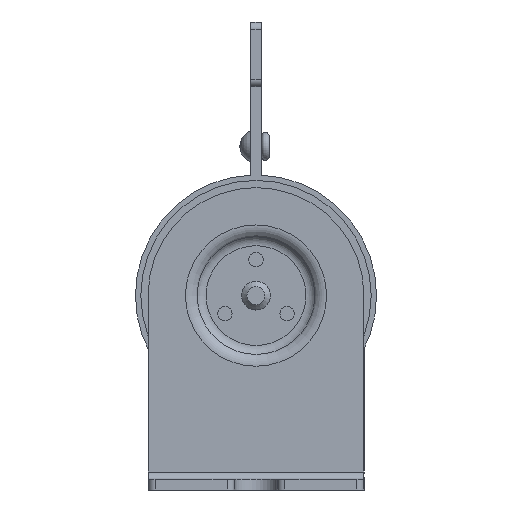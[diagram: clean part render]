
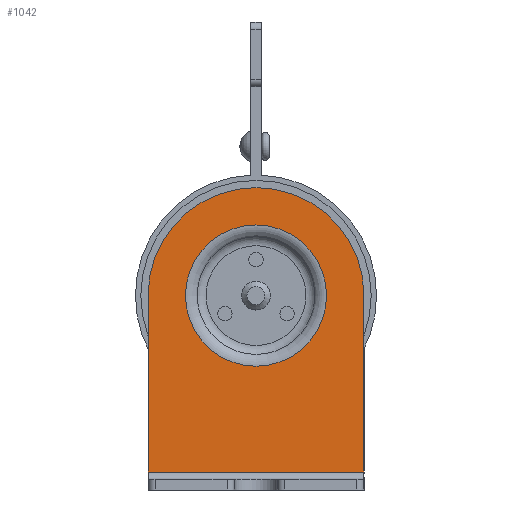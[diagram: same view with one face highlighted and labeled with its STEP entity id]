
A CAD part, left-side view. The second image highlights one B-rep face of the part: STEP entity #1042.
In plain terms, the highlighted planar face has unit normal (-1, 0, 0) as drawn and (1, 0, 0) by its records, which use the part's own axes.
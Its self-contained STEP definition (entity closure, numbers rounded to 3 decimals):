
#1042=ADVANCED_FACE('',(#1810,#1812),#1814,.F.);
#1810=FACE_BOUND('',#1811,.T.);
#1811=EDGE_LOOP('',(#2714,#2715,#2716,#2717));
#1812=FACE_BOUND('',#1813,.T.);
#1813=EDGE_LOOP('',(#2718));
#1814=PLANE('',#1815);
#1815=AXIS2_PLACEMENT_3D('',#1816,#1817,#1818);
#1816=CARTESIAN_POINT('',(1.5,0.,0.));
#1817=DIRECTION('',(-1.,0.,0.));
#1818=DIRECTION('',(0.,-1.,0.));
#2714=ORIENTED_EDGE('',*,*,#3139,.T.);
#2715=ORIENTED_EDGE('',*,*,#3146,.F.);
#2716=ORIENTED_EDGE('',*,*,#3147,.F.);
#2717=ORIENTED_EDGE('',*,*,#3148,.F.);
#2718=ORIENTED_EDGE('',*,*,#3149,.F.);
#3139=EDGE_CURVE('',#3407,#3405,#3408,.T.);
#3146=EDGE_CURVE('',#3417,#3405,#3418,.T.);
#3147=EDGE_CURVE('',#3419,#3417,#3420,.T.);
#3148=EDGE_CURVE('',#3407,#3419,#3421,.T.);
#3149=EDGE_CURVE('',#3422,#3422,#3423,.T.);
#3405=VERTEX_POINT('',#3917);
#3407=VERTEX_POINT('',#3922);
#3408=LINE('',#3923,#3924);
#3417=VERTEX_POINT('',#3949);
#3418=LINE('',#3950,#3951);
#3419=VERTEX_POINT('',#3953);
#3420=CIRCLE('',#3954,15.);
#3421=LINE('',#3958,#3959);
#3422=VERTEX_POINT('',#3961);
#3423=CIRCLE('',#3962,9.806);
#3917=CARTESIAN_POINT('',(1.5,15.,-14.));
#3922=CARTESIAN_POINT('',(1.5,-15.,-14.));
#3923=CARTESIAN_POINT('',(1.5,-15.,-14.));
#3924=VECTOR('',#3925,1.);
#3925=DIRECTION('',(0.,1.,0.));
#3949=CARTESIAN_POINT('',(1.5,15.,10.5));
#3950=CARTESIAN_POINT('',(1.5,15.,10.5));
#3951=VECTOR('',#3952,1.);
#3952=DIRECTION('',(0.,0.,-1.));
#3953=CARTESIAN_POINT('',(1.5,-15.,10.5));
#3954=AXIS2_PLACEMENT_3D('',#3955,#3956,#3957);
#3955=CARTESIAN_POINT('',(1.5,0.,10.5));
#3956=DIRECTION('',(-1.,0.,0.));
#3957=DIRECTION('',(0.,-1.,0.));
#3958=CARTESIAN_POINT('',(1.5,-15.,-14.));
#3959=VECTOR('',#3960,1.);
#3960=DIRECTION('',(0.,0.,1.));
#3961=CARTESIAN_POINT('',(1.5,9.806,10.5));
#3962=AXIS2_PLACEMENT_3D('',#3963,#3964,#3965);
#3963=CARTESIAN_POINT('',(1.5,0.,10.5));
#3964=DIRECTION('',(1.,0.,0.));
#3965=DIRECTION('',(0.,1.,0.));
